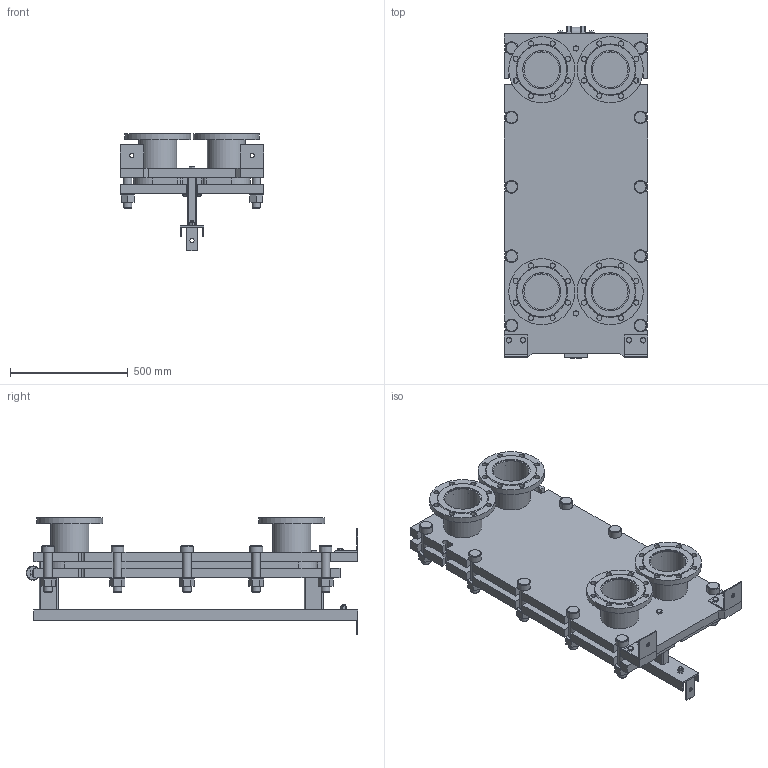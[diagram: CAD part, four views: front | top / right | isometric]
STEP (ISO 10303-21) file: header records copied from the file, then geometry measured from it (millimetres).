
FILE_DESCRIPTION(/* description */ (''),/* implementation_level */ '2;1');
FILE_NAME(/* name */ 'C:\Users\zhuro\Desktop\ENCO\TO\ЭН-041\ЭН-0,5-041-8-1.stp',/* time_stamp */ '2022-06-06T10:48:25+03:00',/* author */ ('zhuro'),/* organization */ (''),/* preprocessor_version */ 'ST-DEVELOPER v18.1',/* originating_system */ 'Autodesk Inventor 2022',/* authorisation */ '');
FILE_SCHEMA (('AUTOMOTIVE_DESIGN { 1 0 10303 214 3 1 1 }'));
Length unit declared in the file: millimetre
Products named in the file (1): ЭН-0,5-041-8-1
Bounding box: 610 x 1406.5 x 500 mm (x, y, z)
Volume: 89531345.4 mm3; surface area: 6995986.6 mm2
Topology: 52 solids, 52 shells, 711 faces, 1696 edges, 1094 vertices
Faces by surface type: plane 487, cylinder 177, cone 41, torus 6
Full cylindrical faces by diameter (mm): 8 x4, 10 x2, 16 x8, 18 x3, 22 x32, 36 x24, 50 x1, 54 x10, 60 x12, 151 x4, 161 x8, 280 x4
Entity records: 22667 total; most frequent: CARTESIAN_POINT 5230, DIRECTION 3644, ORIENTED_EDGE 3392, EDGE_CURVE 1696, AXIS2_PLACEMENT_3D 1272, LINE 1100, VECTOR 1100, VERTEX_POINT 1094
